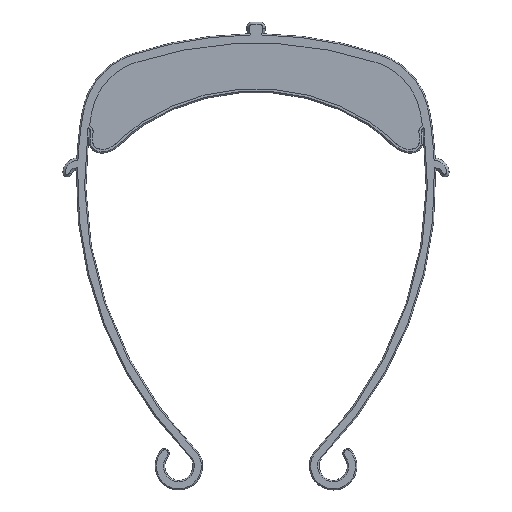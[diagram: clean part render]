
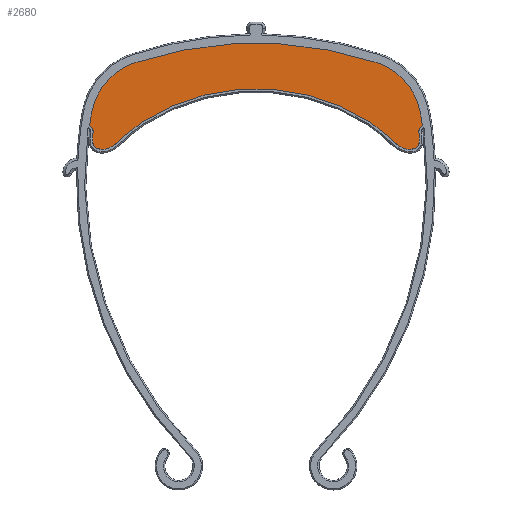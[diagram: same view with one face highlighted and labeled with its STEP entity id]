
A CAD part, top view. The second image highlights one B-rep face of the part: STEP entity #2680.
In plain terms, the highlighted planar face has unit normal (0, 0, 1).
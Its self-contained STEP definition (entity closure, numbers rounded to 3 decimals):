
#319=CARTESIAN_POINT('',(-90.929,-32.488,10.6));
#320=DIRECTION('',(0.,0.,-1.));
#321=DIRECTION('',(0.985,0.175,0.));
#322=AXIS2_PLACEMENT_3D('',#319,#320,#321);
#346=CARTESIAN_POINT('',(-42.585,-8.711,10.6));
#347=DIRECTION('',(0.,0.,1.));
#348=DIRECTION('',(-0.314,0.949,0.));
#349=AXIS2_PLACEMENT_3D('',#346,#347,#348);
#355=CARTESIAN_POINT('',(90.961,-32.488,10.6));
#356=DIRECTION('',(0.,0.,1.));
#357=DIRECTION('',(-0.985,0.175,0.));
#358=AXIS2_PLACEMENT_3D('',#355,#356,#357);
#382=CARTESIAN_POINT('',(-71.715,-12.031,10.6));
#383=DIRECTION('',(0.,0.,1.));
#384=DIRECTION('',(0.972,0.236,0.));
#385=AXIS2_PLACEMENT_3D('',#382,#383,#384);
#391=CARTESIAN_POINT('',(-48.078,-7.827,10.6));
#392=CARTESIAN_POINT('',(-50.74,-9.533,10.6));
#393=CARTESIAN_POINT('',(-54.415,-12.338,10.6));
#394=CARTESIAN_POINT('',(-58.461,-16.52,10.6));
#395=CARTESIAN_POINT('',(-61.284,-18.627,10.6));
#396=CARTESIAN_POINT('',(-64.664,-19.684,10.6));
#397=CARTESIAN_POINT('',(-66.957,-19.409,10.6));
#398=CARTESIAN_POINT('',(-68.364,-18.276,10.6));
#399=CARTESIAN_POINT('',(-69.024,-17.065,10.6));
#400=CARTESIAN_POINT('',(-69.181,-15.533,10.6));
#401=CARTESIAN_POINT('',(-69.07,-13.946,10.6));
#402=CARTESIAN_POINT('',(-68.906,-12.49,10.6));
#403=CARTESIAN_POINT('',(-68.849,-11.764,10.6));
#404=CARTESIAN_POINT('',(-68.948,-11.359,10.6));
#410=CARTESIAN_POINT('',(0.016,-82.904,10.6));
#411=DIRECTION('',(0.,0.,1.));
#412=DIRECTION('',(0.539,0.842,0.));
#413=AXIS2_PLACEMENT_3D('',#410,#411,#412);
#415=CARTESIAN_POINT('',(48.109,-7.827,10.6));
#416=CARTESIAN_POINT('',(50.772,-9.532,10.6));
#417=CARTESIAN_POINT('',(54.447,-12.338,10.6));
#418=CARTESIAN_POINT('',(58.493,-16.52,10.6));
#419=CARTESIAN_POINT('',(61.316,-18.627,10.6));
#420=CARTESIAN_POINT('',(64.696,-19.684,10.6));
#421=CARTESIAN_POINT('',(66.989,-19.409,10.6));
#422=CARTESIAN_POINT('',(68.396,-18.276,10.6));
#423=CARTESIAN_POINT('',(69.056,-17.065,10.6));
#424=CARTESIAN_POINT('',(69.214,-15.533,10.6));
#425=CARTESIAN_POINT('',(69.102,-13.946,10.6));
#426=CARTESIAN_POINT('',(68.938,-12.49,10.6));
#427=CARTESIAN_POINT('',(68.881,-11.764,10.6));
#428=CARTESIAN_POINT('',(68.98,-11.358,10.6));
#434=CARTESIAN_POINT('',(71.747,-12.031,10.6));
#435=DIRECTION('',(0.,0.,-1.));
#436=DIRECTION('',(-0.972,0.236,0.));
#437=AXIS2_PLACEMENT_3D('',#434,#435,#436);
#806=CARTESIAN_POINT('',(42.617,-8.71,10.6));
#807=DIRECTION('',(0.,0.,-1.));
#808=DIRECTION('',(0.314,0.949,0.));
#809=AXIS2_PLACEMENT_3D('',#806,#807,#808);
#815=CARTESIAN_POINT('',(0.016,-137.494,10.6));
#816=DIRECTION('',(0.,0.,1.));
#817=DIRECTION('',(0.314,0.949,0.));
#818=AXIS2_PLACEMENT_3D('',#815,#816,#817);
#2223=CARTESIAN_POINT('',(-51.176,17.259,10.6));
#2224=CARTESIAN_POINT('',(-69.515,-3.916,10.6));
#2225=VERTEX_POINT('',#2223);
#2226=VERTEX_POINT('',#2224);
#2227=CARTESIAN_POINT('',(51.208,17.259,10.6));
#2228=VERTEX_POINT('',#2227);
#2229=CARTESIAN_POINT('',(69.547,-3.916,10.6));
#2230=VERTEX_POINT('',#2229);
#2231=CARTESIAN_POINT('',(48.109,-7.826,10.6));
#2232=CARTESIAN_POINT('',(-48.078,-7.827,10.6));
#2233=VERTEX_POINT('',#2231);
#2234=VERTEX_POINT('',#2232);
#2261=CARTESIAN_POINT('',(-70.41,-9.5,10.6));
#2262=VERTEX_POINT('',#2261);
#2263=CARTESIAN_POINT('',(70.442,-9.5,10.6));
#2264=VERTEX_POINT('',#2263);
#2265=VERTEX_POINT('',#404);
#2266=VERTEX_POINT('',#428);
#2654=CARTESIAN_POINT('',(0.,0.,10.6));
#2655=DIRECTION('',(0.,0.,1.));
#2656=DIRECTION('',(1.,0.,0.));
#2657=AXIS2_PLACEMENT_3D('',#2654,#2655,#2656);
#2658=PLANE('',#2657);
#2660=ORIENTED_EDGE('',*,*,#2659,.F.);
#2662=ORIENTED_EDGE('',*,*,#2661,.F.);
#2664=ORIENTED_EDGE('',*,*,#2663,.T.);
#2665=ORIENTED_EDGE('',*,*,#2626,.T.);
#2667=ORIENTED_EDGE('',*,*,#2666,.F.);
#2669=ORIENTED_EDGE('',*,*,#2668,.F.);
#2671=ORIENTED_EDGE('',*,*,#2670,.T.);
#2673=ORIENTED_EDGE('',*,*,#2672,.T.);
#2675=ORIENTED_EDGE('',*,*,#2674,.T.);
#2677=ORIENTED_EDGE('',*,*,#2676,.F.);
#2678=EDGE_LOOP('',(#2660,#2662,#2664,#2665,#2667,#2669,#2671,#2673,#2675,
#2677));
#2679=FACE_OUTER_BOUND('',#2678,.F.);
#2680=ADVANCED_FACE('',(#2679),#2658,.T.);
#323=CIRCLE('',#322,163.);
#350=CIRCLE('',#349,27.353);
#359=CIRCLE('',#358,163.);
#386=CIRCLE('',#385,2.848);
#405=B_SPLINE_CURVE_WITH_KNOTS('',3,(#391,#392,#393,#394,#395,#396,#397,#398,
#399,#400,#401,#402,#403,#404),.UNSPECIFIED.,.F.,.F.,(4,1,1,1,1,1,1,1,1,1,1,4),(
0.,0.287,0.411,0.535,0.63,
0.725,0.777,0.83,0.872,
0.915,0.957,1.),.UNSPECIFIED.);
#414=CIRCLE('',#413,89.16);
#429=B_SPLINE_CURVE_WITH_KNOTS('',3,(#415,#416,#417,#418,#419,#420,#421,#422,
#423,#424,#425,#426,#427,#428),.UNSPECIFIED.,.F.,.F.,(4,1,1,1,1,1,1,1,1,1,1,4),(
0.,0.287,0.411,0.535,0.63,
0.725,0.777,0.83,0.872,
0.915,0.957,1.),.UNSPECIFIED.);
#438=CIRCLE('',#437,2.848);
#810=CIRCLE('',#809,27.353);
#819=CIRCLE('',#818,163.);
#2626=EDGE_CURVE('',#2230,#2264,#323,.T.);
#2659=EDGE_CURVE('',#2225,#2226,#350,.T.);
#2661=EDGE_CURVE('',#2228,#2225,#819,.T.);
#2663=EDGE_CURVE('',#2228,#2230,#810,.T.);
#2666=EDGE_CURVE('',#2266,#2264,#438,.T.);
#2668=EDGE_CURVE('',#2233,#2266,#429,.T.);
#2670=EDGE_CURVE('',#2233,#2234,#414,.T.);
#2672=EDGE_CURVE('',#2234,#2265,#405,.T.);
#2674=EDGE_CURVE('',#2265,#2262,#386,.T.);
#2676=EDGE_CURVE('',#2226,#2262,#359,.T.);
